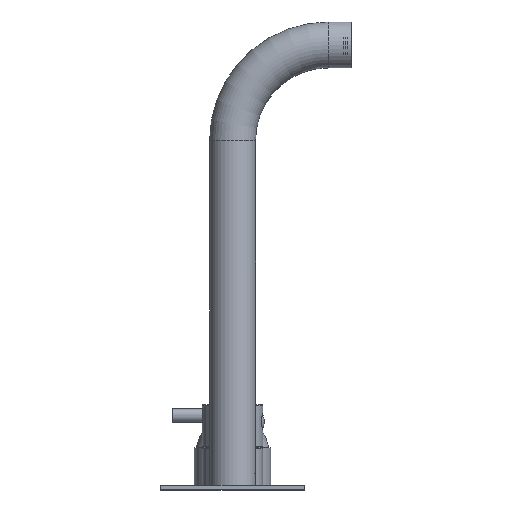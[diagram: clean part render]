
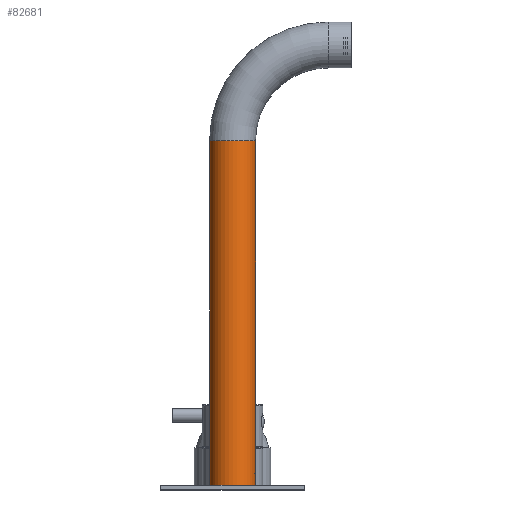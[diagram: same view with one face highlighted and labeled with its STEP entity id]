
A CAD part, top view. The second image highlights one B-rep face of the part: STEP entity #82681.
In plain terms, the highlighted cylindrical face has radius 12 mm (diameter 24 mm), a partial arc.
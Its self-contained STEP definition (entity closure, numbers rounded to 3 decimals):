
#77242=DIRECTION('',(0.,1.,0.));
#77243=VECTOR('',#77242,3.75);
#77244=CARTESIAN_POINT('',(12.,77.,110.));
#77245=LINE('',#77244,#77243);
#77303=DIRECTION('',(0.,1.,0.));
#77304=VECTOR('',#77303,171.75);
#77305=CARTESIAN_POINT('',(12.,85.25,110.));
#77306=LINE('',#77305,#77304);
#79303=CARTESIAN_POINT('',(0.,257.,110.));
#79304=DIRECTION('',(0.,1.,0.));
#79305=DIRECTION('',(-1.,0.,0.));
#79306=AXIS2_PLACEMENT_3D('',#79303,#79304,#79305);
#79313=CARTESIAN_POINT('',(0.,77.,110.));
#79314=DIRECTION('',(0.,1.,0.));
#79315=DIRECTION('',(-1.,0.,0.));
#79316=AXIS2_PLACEMENT_3D('',#79313,#79314,#79315);
#79318=DIRECTION('',(0.,1.,0.));
#79319=VECTOR('',#79318,180.);
#79320=CARTESIAN_POINT('',(-12.,77.,110.));
#79321=LINE('',#79320,#79319);
#79322=CARTESIAN_POINT('',(12.,80.75,110.));
#79323=CARTESIAN_POINT('',(12.,80.75,110.044));
#79324=CARTESIAN_POINT('',(12.,80.753,110.132));
#79325=CARTESIAN_POINT('',(11.997,80.764,110.265));
#79326=CARTESIAN_POINT('',(11.994,80.784,110.396));
#79327=CARTESIAN_POINT('',(11.989,80.811,110.526));
#79328=CARTESIAN_POINT('',(11.982,80.846,110.654));
#79329=CARTESIAN_POINT('',(11.975,80.888,110.78));
#79330=CARTESIAN_POINT('',(11.966,80.938,110.904));
#79331=CARTESIAN_POINT('',(11.956,80.995,111.025));
#79332=CARTESIAN_POINT('',(11.946,81.06,111.142));
#79333=CARTESIAN_POINT('',(11.934,81.131,111.255));
#79334=CARTESIAN_POINT('',(11.922,81.209,111.364));
#79335=CARTESIAN_POINT('',(11.91,81.294,111.469));
#79336=CARTESIAN_POINT('',(11.897,81.385,111.568));
#79337=CARTESIAN_POINT('',(11.885,81.481,111.662));
#79338=CARTESIAN_POINT('',(11.872,81.583,111.749));
#79339=CARTESIAN_POINT('',(11.86,81.69,111.831));
#79340=CARTESIAN_POINT('',(11.848,81.801,111.906));
#79341=CARTESIAN_POINT('',(11.837,81.917,111.973));
#79342=CARTESIAN_POINT('',(11.826,82.036,112.034));
#79343=CARTESIAN_POINT('',(11.817,82.158,112.088));
#79344=CARTESIAN_POINT('',(11.809,82.283,112.134));
#79345=CARTESIAN_POINT('',(11.802,82.41,112.173));
#79346=CARTESIAN_POINT('',(11.796,82.539,112.204));
#79347=CARTESIAN_POINT('',(11.792,82.67,112.227));
#79348=CARTESIAN_POINT('',(11.789,82.802,112.243));
#79349=CARTESIAN_POINT('',(11.787,82.934,112.25));
#79350=CARTESIAN_POINT('',(11.787,83.066,112.25));
#79351=CARTESIAN_POINT('',(11.789,83.198,112.243));
#79352=CARTESIAN_POINT('',(11.792,83.33,112.227));
#79353=CARTESIAN_POINT('',(11.796,83.461,112.204));
#79354=CARTESIAN_POINT('',(11.802,83.59,112.173));
#79355=CARTESIAN_POINT('',(11.809,83.717,112.134));
#79356=CARTESIAN_POINT('',(11.817,83.842,112.088));
#79357=CARTESIAN_POINT('',(11.826,83.964,112.034));
#79358=CARTESIAN_POINT('',(11.837,84.083,111.973));
#79359=CARTESIAN_POINT('',(11.848,84.199,111.905));
#79360=CARTESIAN_POINT('',(11.86,84.31,111.831));
#79361=CARTESIAN_POINT('',(11.872,84.417,111.749));
#79362=CARTESIAN_POINT('',(11.885,84.519,111.662));
#79363=CARTESIAN_POINT('',(11.897,84.615,111.568));
#79364=CARTESIAN_POINT('',(11.91,84.706,111.469));
#79365=CARTESIAN_POINT('',(11.922,84.791,111.364));
#79366=CARTESIAN_POINT('',(11.934,84.869,111.255));
#79367=CARTESIAN_POINT('',(11.946,84.94,111.142));
#79368=CARTESIAN_POINT('',(11.956,85.005,111.025));
#79369=CARTESIAN_POINT('',(11.966,85.062,110.904));
#79370=CARTESIAN_POINT('',(11.975,85.112,110.78));
#79371=CARTESIAN_POINT('',(11.982,85.154,110.654));
#79372=CARTESIAN_POINT('',(11.989,85.189,110.526));
#79373=CARTESIAN_POINT('',(11.994,85.216,110.396));
#79374=CARTESIAN_POINT('',(11.997,85.236,110.265));
#79375=CARTESIAN_POINT('',(12.,85.247,110.132));
#79376=CARTESIAN_POINT('',(12.,85.25,110.044));
#79377=CARTESIAN_POINT('',(12.,85.25,110.));
#80162=CARTESIAN_POINT('',(-12.,257.,110.));
#80163=CARTESIAN_POINT('',(12.,257.,110.));
#80164=VERTEX_POINT('',#80162);
#80165=VERTEX_POINT('',#80163);
#80204=VERTEX_POINT('',#79322);
#80205=VERTEX_POINT('',#79377);
#80477=CARTESIAN_POINT('',(-12.,77.,110.));
#80478=CARTESIAN_POINT('',(12.,77.,110.));
#80479=VERTEX_POINT('',#80477);
#80480=VERTEX_POINT('',#80478);
#82668=CARTESIAN_POINT('',(0.,77.,110.));
#82669=DIRECTION('',(0.,1.,0.));
#82670=DIRECTION('',(-1.,0.,0.));
#82671=AXIS2_PLACEMENT_3D('',#82668,#82669,#82670);
#82672=CYLINDRICAL_SURFACE('',#82671,12.);
#82673=ORIENTED_EDGE('',*,*,#80971,.F.);
#82674=ORIENTED_EDGE('',*,*,#80951,.T.);
#82675=ORIENTED_EDGE('',*,*,#82658,.T.);
#82676=ORIENTED_EDGE('',*,*,#80947,.F.);
#82677=ORIENTED_EDGE('',*,*,#80897,.F.);
#82678=ORIENTED_EDGE('',*,*,#80944,.F.);
#82679=EDGE_LOOP('',(#82673,#82674,#82675,#82676,#82677,#82678));
#82680=FACE_OUTER_BOUND('',#82679,.F.);
#82681=ADVANCED_FACE('',(#82680),#82672,.T.);
#79307=CIRCLE('',#79306,12.);
#79317=CIRCLE('',#79316,12.);
#79378=B_SPLINE_CURVE_WITH_KNOTS('',3,(#79322,#79323,#79324,#79325,#79326,
#79327,#79328,#79329,#79330,#79331,#79332,#79333,#79334,#79335,#79336,#79337,
#79338,#79339,#79340,#79341,#79342,#79343,#79344,#79345,#79346,#79347,#79348,
#79349,#79350,#79351,#79352,#79353,#79354,#79355,#79356,#79357,#79358,#79359,
#79360,#79361,#79362,#79363,#79364,#79365,#79366,#79367,#79368,#79369,#79370,
#79371,#79372,#79373,#79374,#79375,#79376,#79377),.UNSPECIFIED.,.F.,.F.,(4,1,1,
1,1,1,1,1,1,1,1,1,1,1,1,1,1,1,1,1,1,1,1,1,1,1,1,1,1,1,1,1,1,1,1,1,1,1,1,1,1,1,1,
1,1,1,1,1,1,1,1,1,1,4),(0.,0.019,0.038,
0.057,0.075,0.094,0.113,
0.132,0.151,0.17,0.189,
0.208,0.226,0.245,0.264,
0.283,0.302,0.321,0.34,
0.358,0.377,0.396,0.415,
0.434,0.453,0.472,0.491,
0.509,0.528,0.547,0.566,
0.585,0.604,0.623,0.642,
0.66,0.679,0.698,0.717,
0.736,0.755,0.774,0.792,
0.811,0.83,0.849,0.868,
0.887,0.906,0.925,0.943,
0.962,0.981,1.),.UNSPECIFIED.);
#80897=EDGE_CURVE('',#80204,#80205,#79378,.T.);
#80944=EDGE_CURVE('',#80480,#80204,#77245,.T.);
#80947=EDGE_CURVE('',#80205,#80165,#77306,.T.);
#80951=EDGE_CURVE('',#80479,#80164,#79321,.T.);
#80971=EDGE_CURVE('',#80479,#80480,#79317,.T.);
#82658=EDGE_CURVE('',#80164,#80165,#79307,.T.);
